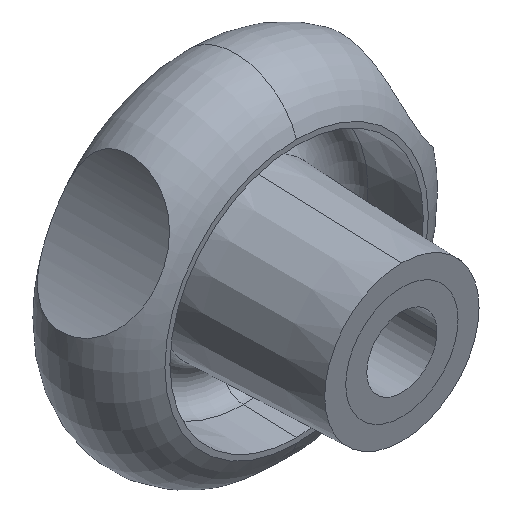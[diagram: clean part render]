
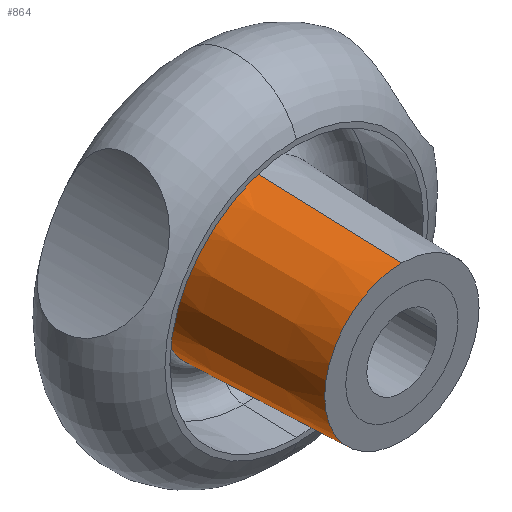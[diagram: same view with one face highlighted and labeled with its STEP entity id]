
A CAD part, isometric view. The second image highlights one B-rep face of the part: STEP entity #864.
In plain terms, the highlighted conical face has half-angle 2 degrees and reference radius 11.789 mm.
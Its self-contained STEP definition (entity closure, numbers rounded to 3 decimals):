
#56 = FACE_OUTER_BOUND ( 'NONE', #905, .T. ) ;
#117 = ORIENTED_EDGE ( 'NONE', *, *, #161, .F. ) ;
#161 = EDGE_CURVE ( 'NONE', #926, #561, #1126, .T. ) ;
#163 = DIRECTION ( 'NONE',  ( 0., -1., 0. ) ) ;
#189 = LINE ( 'NONE', #274, #1259 ) ;
#238 = ORIENTED_EDGE ( 'NONE', *, *, #1073, .F. ) ;
#274 = CARTESIAN_POINT ( 'NONE',  ( 0., 22.605, 11.789 ) ) ;
#337 = DIRECTION ( 'NONE',  ( 0., -1., 0. ) ) ;
#342 = VERTEX_POINT ( 'NONE', #812 ) ;
#372 = CARTESIAN_POINT ( 'NONE',  ( 0., 0., 0. ) ) ;
#385 = AXIS2_PLACEMENT_3D ( 'NONE', #768, #337, #869 ) ;
#387 = DIRECTION ( 'NONE',  ( 0., 0., -1. ) ) ;
#393 = VERTEX_POINT ( 'NONE', #732 ) ;
#403 = AXIS2_PLACEMENT_3D ( 'NONE', #1319, #1202, #1294 ) ;
#490 = CIRCLE ( 'NONE', #1037, 11. ) ;
#503 = DIRECTION ( 'NONE',  ( 0., 0.999, 0.035 ) ) ;
#538 = CIRCLE ( 'NONE', #385, 11.789 ) ;
#548 = DIRECTION ( 'NONE',  ( 0., 0.999, -0.035 ) ) ;
#561 = VERTEX_POINT ( 'NONE', #937 ) ;
#650 = CARTESIAN_POINT ( 'NONE',  ( 0., 22.605, -11.789 ) ) ;
#679 = EDGE_CURVE ( 'NONE', #342, #561, #538, .T. ) ;
#732 = CARTESIAN_POINT ( 'NONE',  ( 0., 0., 11. ) ) ;
#768 = CARTESIAN_POINT ( 'NONE',  ( 0., 22.605, 0. ) ) ;
#805 = CARTESIAN_POINT ( 'NONE',  ( 0., 0., -11. ) ) ;
#812 = CARTESIAN_POINT ( 'NONE',  ( 0., 22.605, 11.789 ) ) ;
#864 = ADVANCED_FACE ( 'NONE', ( #56 ), #1201, .T. ) ;
#869 = DIRECTION ( 'NONE',  ( 0., 0., -1. ) ) ;
#883 = ORIENTED_EDGE ( 'NONE', *, *, #679, .T. ) ;
#905 = EDGE_LOOP ( 'NONE', ( #117, #238, #1088, #883 ) ) ;
#926 = VERTEX_POINT ( 'NONE', #805 ) ;
#937 = CARTESIAN_POINT ( 'NONE',  ( 0., 22.605, -11.789 ) ) ;
#1037 = AXIS2_PLACEMENT_3D ( 'NONE', #372, #163, #387 ) ;
#1073 = EDGE_CURVE ( 'NONE', #393, #926, #490, .T. ) ;
#1088 = ORIENTED_EDGE ( 'NONE', *, *, #1129, .T. ) ;
#1126 = LINE ( 'NONE', #650, #1142 ) ;
#1129 = EDGE_CURVE ( 'NONE', #393, #342, #189, .T. ) ;
#1142 = VECTOR ( 'NONE', #548, 1000. ) ;
#1201 = CONICAL_SURFACE ( 'NONE', #403, 11.789, 0.035 ) ;
#1202 = DIRECTION ( 'NONE',  ( 0., 1., 0. ) ) ;
#1259 = VECTOR ( 'NONE', #503, 1000. ) ;
#1294 = DIRECTION ( 'NONE',  ( 0., 0., 1. ) ) ;
#1319 = CARTESIAN_POINT ( 'NONE',  ( 0., 22.605, 0. ) ) ;
